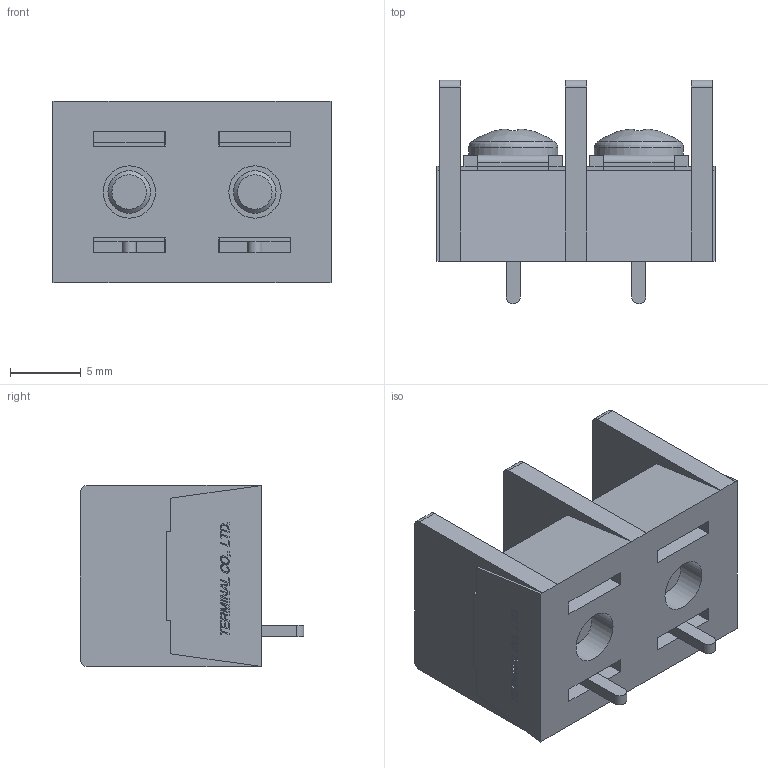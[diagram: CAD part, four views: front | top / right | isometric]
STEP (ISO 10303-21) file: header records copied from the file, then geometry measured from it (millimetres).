
FILE_DESCRIPTION(/* description */ ('Alibre Inc.'),/* implementation_level */ '2;1');
FILE_NAME(/* name */ 'export0',/* time_stamp */ '2015-10-20T19:38:24+09:00',/* author */ (''),/* organization */ (''),/* preprocessor_version */ 'ST-DEVELOPER v14',/* originating_system */ 'Alibre',/* authorisation */ '');
FILE_SCHEMA (('CONFIG_CONTROL_DESIGN'));
Length unit declared in the file: centimetre
Products named in the file (1): ID_1
Bounding box: 19.69 x 15.8 x 12.8 mm (x, y, z)
Volume: 1903.9 mm3; surface area: 2436.8 mm2
Topology: 1 solids, 35 shells, 952 faces, 2474 edges, 1640 vertices
Faces by surface type: plane 706, bspline 208, cylinder 22, cone 10, torus 4, sphere 2
Full cylindrical faces by diameter (mm): 3 x4, 3.7 x2, 4.6 x2, 6.3 x2
Entity records: 27839 total; most frequent: CARTESIAN_POINT 6879, ORIENTED_EDGE 4904, DIRECTION 2800, EDGE_CURVE 2452, VECTOR 1908, LINE 1908, VERTEX_POINT 1634, EDGE_LOOP 1044
